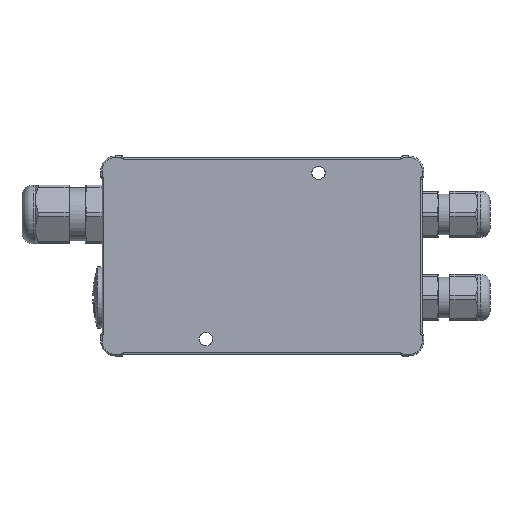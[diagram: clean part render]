
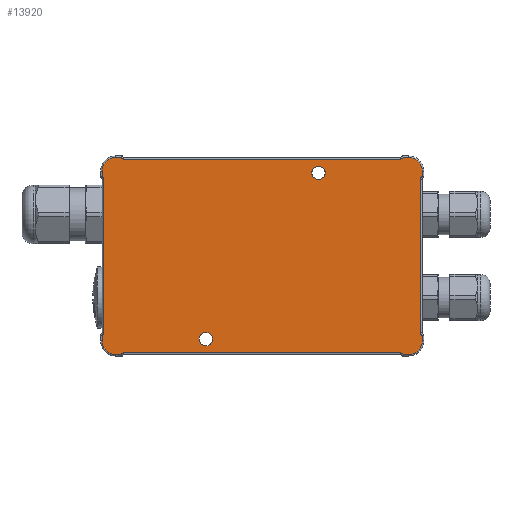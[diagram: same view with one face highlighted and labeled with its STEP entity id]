
A CAD part, front view. The second image highlights one B-rep face of the part: STEP entity #13920.
In plain terms, the highlighted planar face has unit normal (0, -1, 0).
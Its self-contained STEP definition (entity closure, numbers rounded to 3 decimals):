
#56=DIRECTION('',(0.,0.,1.));
#57=VECTOR('',#56,1.634);
#58=CARTESIAN_POINT('',(52.,0.,25.866));
#59=LINE('',#58,#57);
#64=CARTESIAN_POINT('',(52.5,0.,25.));
#65=DIRECTION('',(0.,-1.,0.));
#66=DIRECTION('',(-0.5,0.,0.866));
#67=AXIS2_PLACEMENT_3D('',#64,#65,#66);
#72=DIRECTION('',(0.,0.,-1.));
#73=VECTOR('',#72,50.);
#74=CARTESIAN_POINT('',(51.5,0.,25.));
#75=LINE('',#74,#73);
#79=CARTESIAN_POINT('',(52.5,0.,-25.));
#80=DIRECTION('',(0.,-1.,0.));
#81=DIRECTION('',(-1.,0.,0.));
#82=AXIS2_PLACEMENT_3D('',#79,#80,#81);
#87=DIRECTION('',(0.,0.,1.));
#88=VECTOR('',#87,1.634);
#89=CARTESIAN_POINT('',(52.,0.,-27.5));
#90=LINE('',#89,#88);
#94=CARTESIAN_POINT('',(47.5,0.,-27.5));
#95=DIRECTION('',(0.,-1.,0.));
#96=DIRECTION('',(0.,0.,-1.));
#97=AXIS2_PLACEMENT_3D('',#94,#95,#96);
#102=DIRECTION('',(1.,0.,0.));
#103=VECTOR('',#102,1.634);
#104=CARTESIAN_POINT('',(45.866,0.,-32.));
#105=LINE('',#104,#103);
#109=CARTESIAN_POINT('',(45.,0.,-32.5));
#110=DIRECTION('',(0.,-1.,0.));
#111=DIRECTION('',(0.866,0.,0.5));
#112=AXIS2_PLACEMENT_3D('',#109,#110,#111);
#117=DIRECTION('',(-1.,0.,0.));
#118=VECTOR('',#117,90.);
#119=CARTESIAN_POINT('',(45.,0.,-31.5));
#120=LINE('',#119,#118);
#124=CARTESIAN_POINT('',(-45.,0.,-32.5));
#125=DIRECTION('',(0.,-1.,0.));
#126=DIRECTION('',(0.,0.,1.));
#127=AXIS2_PLACEMENT_3D('',#124,#125,#126);
#132=DIRECTION('',(1.,0.,0.));
#133=VECTOR('',#132,1.634);
#134=CARTESIAN_POINT('',(-47.5,0.,-32.));
#135=LINE('',#134,#133);
#139=CARTESIAN_POINT('',(-47.5,0.,-27.5));
#140=DIRECTION('',(0.,-1.,0.));
#141=DIRECTION('',(-1.,0.,0.));
#142=AXIS2_PLACEMENT_3D('',#139,#140,#141);
#147=DIRECTION('',(0.,0.,-1.));
#148=VECTOR('',#147,1.634);
#149=CARTESIAN_POINT('',(-52.,0.,-25.866));
#150=LINE('',#149,#148);
#154=CARTESIAN_POINT('',(-52.5,0.,-25.));
#155=DIRECTION('',(0.,-1.,0.));
#156=DIRECTION('',(0.5,0.,-0.866));
#157=AXIS2_PLACEMENT_3D('',#154,#155,#156);
#162=DIRECTION('',(0.,0.,1.));
#163=VECTOR('',#162,50.);
#164=CARTESIAN_POINT('',(-51.5,0.,-25.));
#165=LINE('',#164,#163);
#169=CARTESIAN_POINT('',(-52.5,0.,25.));
#170=DIRECTION('',(0.,-1.,0.));
#171=DIRECTION('',(1.,0.,0.));
#172=AXIS2_PLACEMENT_3D('',#169,#170,#171);
#177=DIRECTION('',(0.,0.,-1.));
#178=VECTOR('',#177,1.634);
#179=CARTESIAN_POINT('',(-52.,0.,27.5));
#180=LINE('',#179,#178);
#184=CARTESIAN_POINT('',(-47.5,0.,27.5));
#185=DIRECTION('',(0.,-1.,0.));
#186=DIRECTION('',(0.,0.,1.));
#187=AXIS2_PLACEMENT_3D('',#184,#185,#186);
#192=DIRECTION('',(-1.,0.,0.));
#193=VECTOR('',#192,1.634);
#194=CARTESIAN_POINT('',(-45.866,0.,32.));
#195=LINE('',#194,#193);
#199=CARTESIAN_POINT('',(-45.,0.,32.5));
#200=DIRECTION('',(0.,-1.,0.));
#201=DIRECTION('',(-0.866,0.,-0.5));
#202=AXIS2_PLACEMENT_3D('',#199,#200,#201);
#207=DIRECTION('',(1.,0.,0.));
#208=VECTOR('',#207,90.);
#209=CARTESIAN_POINT('',(-45.,0.,31.5));
#210=LINE('',#209,#208);
#214=CARTESIAN_POINT('',(45.,0.,32.5));
#215=DIRECTION('',(0.,-1.,0.));
#216=DIRECTION('',(0.,0.,-1.));
#217=AXIS2_PLACEMENT_3D('',#214,#215,#216);
#222=DIRECTION('',(-1.,0.,0.));
#223=VECTOR('',#222,1.634);
#224=CARTESIAN_POINT('',(47.5,0.,32.));
#225=LINE('',#224,#223);
#229=CARTESIAN_POINT('',(47.5,0.,27.5));
#230=DIRECTION('',(0.,-1.,0.));
#231=DIRECTION('',(1.,0.,0.));
#232=AXIS2_PLACEMENT_3D('',#229,#230,#231);
#237=CARTESIAN_POINT('',(-18.3,0.,-27.));
#238=DIRECTION('',(0.,1.,0.));
#239=DIRECTION('',(1.,0.,0.));
#240=AXIS2_PLACEMENT_3D('',#237,#238,#239);
#245=CARTESIAN_POINT('',(-18.3,0.,-27.));
#246=DIRECTION('',(0.,1.,0.));
#247=DIRECTION('',(-1.,0.,0.));
#248=AXIS2_PLACEMENT_3D('',#245,#246,#247);
#253=CARTESIAN_POINT('',(18.3,0.,27.));
#254=DIRECTION('',(0.,1.,0.));
#255=DIRECTION('',(-1.,0.,0.));
#256=AXIS2_PLACEMENT_3D('',#253,#254,#255);
#261=CARTESIAN_POINT('',(18.3,0.,27.));
#262=DIRECTION('',(0.,1.,0.));
#263=DIRECTION('',(1.,0.,0.));
#264=AXIS2_PLACEMENT_3D('',#261,#262,#263);
#12297=CARTESIAN_POINT('',(-16.15,0.,-27.));
#12298=CARTESIAN_POINT('',(-20.45,0.,-27.));
#12299=VERTEX_POINT('',#12297);
#12300=VERTEX_POINT('',#12298);
#12305=CARTESIAN_POINT('',(16.15,0.,27.));
#12306=CARTESIAN_POINT('',(20.45,0.,27.));
#12307=VERTEX_POINT('',#12305);
#12308=VERTEX_POINT('',#12306);
#12333=CARTESIAN_POINT('',(52.,0.,25.866));
#12334=CARTESIAN_POINT('',(52.,0.,27.5));
#12335=VERTEX_POINT('',#12333);
#12336=VERTEX_POINT('',#12334);
#12341=CARTESIAN_POINT('',(47.5,0.,32.));
#12342=VERTEX_POINT('',#12341);
#12347=CARTESIAN_POINT('',(45.866,0.,32.));
#12348=VERTEX_POINT('',#12347);
#12353=CARTESIAN_POINT('',(51.5,0.,25.));
#12354=CARTESIAN_POINT('',(51.5,0.,-25.));
#12355=VERTEX_POINT('',#12353);
#12356=VERTEX_POINT('',#12354);
#12357=CARTESIAN_POINT('',(45.866,0.,-32.));
#12358=CARTESIAN_POINT('',(47.5,0.,-32.));
#12359=VERTEX_POINT('',#12357);
#12360=VERTEX_POINT('',#12358);
#12365=CARTESIAN_POINT('',(52.,0.,-27.5));
#12366=VERTEX_POINT('',#12365);
#12371=CARTESIAN_POINT('',(52.,0.,-25.866));
#12372=VERTEX_POINT('',#12371);
#12377=CARTESIAN_POINT('',(45.,0.,-31.5));
#12378=CARTESIAN_POINT('',(-45.,0.,-31.5));
#12379=VERTEX_POINT('',#12377);
#12380=VERTEX_POINT('',#12378);
#12381=CARTESIAN_POINT('',(-52.,0.,-25.866));
#12382=CARTESIAN_POINT('',(-52.,0.,-27.5));
#12383=VERTEX_POINT('',#12381);
#12384=VERTEX_POINT('',#12382);
#12389=CARTESIAN_POINT('',(-47.5,0.,-32.));
#12390=VERTEX_POINT('',#12389);
#12395=CARTESIAN_POINT('',(-45.866,0.,-32.));
#12396=VERTEX_POINT('',#12395);
#12401=CARTESIAN_POINT('',(-51.5,0.,-25.));
#12402=CARTESIAN_POINT('',(-51.5,0.,25.));
#12403=VERTEX_POINT('',#12401);
#12404=VERTEX_POINT('',#12402);
#12409=CARTESIAN_POINT('',(-52.,0.,27.5));
#12410=CARTESIAN_POINT('',(-52.,0.,25.866));
#12411=VERTEX_POINT('',#12409);
#12412=VERTEX_POINT('',#12410);
#12413=CARTESIAN_POINT('',(-47.5,0.,32.));
#12414=VERTEX_POINT('',#12413);
#12417=CARTESIAN_POINT('',(-45.866,0.,32.));
#12418=VERTEX_POINT('',#12417);
#12425=CARTESIAN_POINT('',(-45.,0.,31.5));
#12426=CARTESIAN_POINT('',(45.,0.,31.5));
#12427=VERTEX_POINT('',#12425);
#12428=VERTEX_POINT('',#12426);
#13853=CARTESIAN_POINT('',(0.,0.,0.));
#13854=DIRECTION('',(0.,1.,0.));
#13855=DIRECTION('',(1.,0.,0.));
#13856=AXIS2_PLACEMENT_3D('',#13853,#13854,#13855);
#13857=PLANE('',#13856);
#13859=ORIENTED_EDGE('',*,*,#13858,.F.);
#13861=ORIENTED_EDGE('',*,*,#13860,.T.);
#13863=ORIENTED_EDGE('',*,*,#13862,.T.);
#13865=ORIENTED_EDGE('',*,*,#13864,.T.);
#13867=ORIENTED_EDGE('',*,*,#13866,.F.);
#13869=ORIENTED_EDGE('',*,*,#13868,.F.);
#13871=ORIENTED_EDGE('',*,*,#13870,.F.);
#13873=ORIENTED_EDGE('',*,*,#13872,.T.);
#13875=ORIENTED_EDGE('',*,*,#13874,.T.);
#13877=ORIENTED_EDGE('',*,*,#13876,.T.);
#13879=ORIENTED_EDGE('',*,*,#13878,.F.);
#13881=ORIENTED_EDGE('',*,*,#13880,.F.);
#13883=ORIENTED_EDGE('',*,*,#13882,.F.);
#13885=ORIENTED_EDGE('',*,*,#13884,.T.);
#13887=ORIENTED_EDGE('',*,*,#13886,.T.);
#13889=ORIENTED_EDGE('',*,*,#13888,.T.);
#13891=ORIENTED_EDGE('',*,*,#13890,.F.);
#13893=ORIENTED_EDGE('',*,*,#13892,.F.);
#13895=ORIENTED_EDGE('',*,*,#13894,.F.);
#13897=ORIENTED_EDGE('',*,*,#13896,.T.);
#13899=ORIENTED_EDGE('',*,*,#13898,.T.);
#13901=ORIENTED_EDGE('',*,*,#13900,.T.);
#13903=ORIENTED_EDGE('',*,*,#13902,.F.);
#13905=ORIENTED_EDGE('',*,*,#13904,.F.);
#13906=EDGE_LOOP('',(#13859,#13861,#13863,#13865,#13867,#13869,#13871,#13873,
#13875,#13877,#13879,#13881,#13883,#13885,#13887,#13889,#13891,#13893,#13895,
#13897,#13899,#13901,#13903,#13905));
#13907=FACE_OUTER_BOUND('',#13906,.F.);
#13909=ORIENTED_EDGE('',*,*,#13908,.F.);
#13911=ORIENTED_EDGE('',*,*,#13910,.F.);
#13912=EDGE_LOOP('',(#13909,#13911));
#13913=FACE_BOUND('',#13912,.F.);
#13915=ORIENTED_EDGE('',*,*,#13914,.F.);
#13917=ORIENTED_EDGE('',*,*,#13916,.F.);
#13918=EDGE_LOOP('',(#13915,#13917));
#13919=FACE_BOUND('',#13918,.F.);
#68=CIRCLE('',#67,1.);
#83=CIRCLE('',#82,1.);
#98=CIRCLE('',#97,4.5);
#113=CIRCLE('',#112,1.);
#128=CIRCLE('',#127,1.);
#143=CIRCLE('',#142,4.5);
#158=CIRCLE('',#157,1.);
#173=CIRCLE('',#172,1.);
#188=CIRCLE('',#187,4.5);
#203=CIRCLE('',#202,1.);
#218=CIRCLE('',#217,1.);
#233=CIRCLE('',#232,4.5);
#241=CIRCLE('',#240,2.15);
#249=CIRCLE('',#248,2.15);
#257=CIRCLE('',#256,2.15);
#265=CIRCLE('',#264,2.15);
#13858=EDGE_CURVE('',#12335,#12336,#59,.T.);
#13860=EDGE_CURVE('',#12335,#12355,#68,.T.);
#13862=EDGE_CURVE('',#12355,#12356,#75,.T.);
#13864=EDGE_CURVE('',#12356,#12372,#83,.T.);
#13866=EDGE_CURVE('',#12366,#12372,#90,.T.);
#13868=EDGE_CURVE('',#12360,#12366,#98,.T.);
#13870=EDGE_CURVE('',#12359,#12360,#105,.T.);
#13872=EDGE_CURVE('',#12359,#12379,#113,.T.);
#13874=EDGE_CURVE('',#12379,#12380,#120,.T.);
#13876=EDGE_CURVE('',#12380,#12396,#128,.T.);
#13878=EDGE_CURVE('',#12390,#12396,#135,.T.);
#13880=EDGE_CURVE('',#12384,#12390,#143,.T.);
#13882=EDGE_CURVE('',#12383,#12384,#150,.T.);
#13884=EDGE_CURVE('',#12383,#12403,#158,.T.);
#13886=EDGE_CURVE('',#12403,#12404,#165,.T.);
#13888=EDGE_CURVE('',#12404,#12412,#173,.T.);
#13890=EDGE_CURVE('',#12411,#12412,#180,.T.);
#13892=EDGE_CURVE('',#12414,#12411,#188,.T.);
#13894=EDGE_CURVE('',#12418,#12414,#195,.T.);
#13896=EDGE_CURVE('',#12418,#12427,#203,.T.);
#13898=EDGE_CURVE('',#12427,#12428,#210,.T.);
#13900=EDGE_CURVE('',#12428,#12348,#218,.T.);
#13902=EDGE_CURVE('',#12342,#12348,#225,.T.);
#13904=EDGE_CURVE('',#12336,#12342,#233,.T.);
#13908=EDGE_CURVE('',#12299,#12300,#241,.T.);
#13910=EDGE_CURVE('',#12300,#12299,#249,.T.);
#13914=EDGE_CURVE('',#12307,#12308,#257,.T.);
#13916=EDGE_CURVE('',#12308,#12307,#265,.T.);
#13920=ADVANCED_FACE('',(#13907,#13913,#13919),#13857,.F.);
